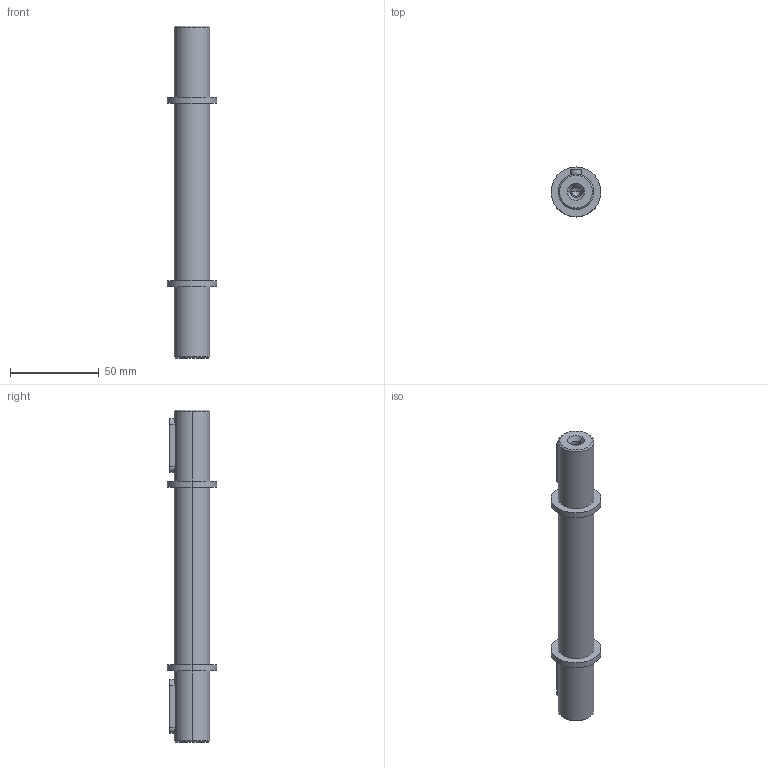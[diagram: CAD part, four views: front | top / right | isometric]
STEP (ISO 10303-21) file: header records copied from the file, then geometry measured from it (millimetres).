
FILE_DESCRIPTION(/* description */ (''),/* implementation_level */ '2;1');
FILE_NAME(/* name */ '5_ALBERO LENTO BISPORGENTE BA42',/* time_stamp */ '2025-10-22T11:40:47+02:00',/* author */ (''),/* organization */ (''),/* preprocessor_version */ 'ST-DEVELOPER v19.2',/* originating_system */ 'Rhino 8.23',/* authorisation */ '');
FILE_SCHEMA (('CONFIG_CONTROL_DESIGN'));
Length unit declared in the file: millimetre
Products named in the file (2): Document; A42-B20804013201
Bounding box: 28 x 28 x 187 mm (x, y, z)
Volume: 60690.2 mm3; surface area: 14752 mm2
Topology: 1 solids, 1 shells, 48 faces, 102 edges, 62 vertices
Faces by surface type: cylinder 22, plane 14, bspline 12
Entity records: 1588 total; most frequent: CARTESIAN_POINT 486, ORIENTED_EDGE 196, DIRECTION 140, EDGE_CURVE 98, AXIS2_PLACEMENT_3D 88, VERTEX_POINT 62, EDGE_LOOP 58, B_SPLINE_CURVE_WITH_KNOTS 50
